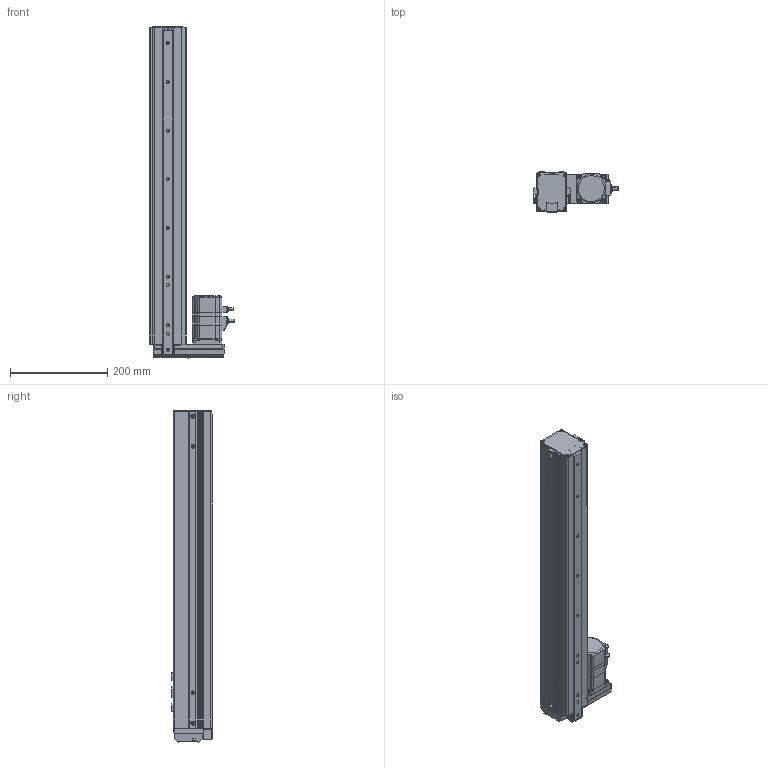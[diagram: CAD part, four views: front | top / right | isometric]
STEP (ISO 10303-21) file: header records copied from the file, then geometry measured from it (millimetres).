
FILE_DESCRIPTION (( 'STEP AP203' ), '1' );
FILE_NAME ('EASM6LYD050ARMK.step', '2013-10-11T04:10:12', ( 'om' ), ( 'Hewlett-Packard Company' ), 'SwSTEP 2.0', 'SolidWorks 2011', '' );
FILE_SCHEMA (( 'CONFIG_CONTROL_DESIGN' ));
Length unit declared in the file: millimetre
Products named in the file (4): EASM6LYD050ARMK; EASM6LYD050ARMK_Table; EASM6LYD050ARMK_BASE; EASM6LYD050ARMK_Motor
Assembly tree (3 placements, depth 2):
  EASM6LYD050ARMK
    EASM6LYD050ARMK_Motor
    EASM6LYD050ARMK_Table
    EASM6LYD050ARMK_BASE
Bounding box: 174.7 x 83 x 682.13 mm (x, y, z)
Volume: 1857317.9 mm3; surface area: 548598.7 mm2
Topology: 3 solids, 15 shells, 1260 faces, 3348 edges, 2186 vertices
Faces by surface type: plane 750, cylinder 442, cone 38, torus 24, bspline 6
Entity records: 40050 total; most frequent: CARTESIAN_POINT 7478, DIRECTION 6734, ORIENTED_EDGE 6676, EDGE_CURVE 3338, VECTOR 2290, LINE 2290, AXIS2_PLACEMENT_3D 2222, VERTEX_POINT 2186
